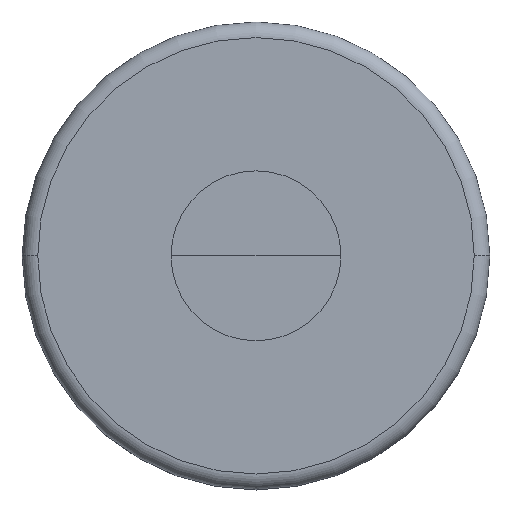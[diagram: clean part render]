
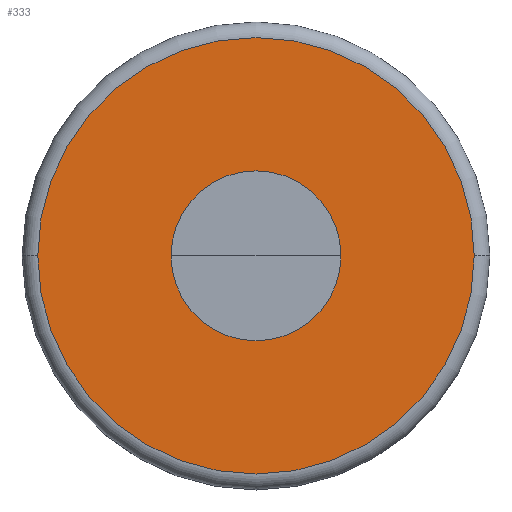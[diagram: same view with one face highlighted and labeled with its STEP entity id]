
A CAD part, top view. The second image highlights one B-rep face of the part: STEP entity #333.
In plain terms, the highlighted planar face has unit normal (0, 0, 1).
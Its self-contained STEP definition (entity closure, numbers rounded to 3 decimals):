
#9=CARTESIAN_POINT('',(0.,0.,1.892));
#10=DIRECTION('',(0.,0.,-1.));
#11=DIRECTION('',(1.,0.,0.));
#12=AXIS2_PLACEMENT_3D('',#9,#10,#11);
#14=CARTESIAN_POINT('',(0.,0.,1.892));
#15=DIRECTION('',(0.,0.,1.));
#16=DIRECTION('',(1.,0.,0.));
#17=AXIS2_PLACEMENT_3D('',#14,#15,#16);
#19=CARTESIAN_POINT('',(0.,0.,1.892));
#20=DIRECTION('',(0.,0.,-1.));
#21=DIRECTION('',(1.,0.,0.));
#22=AXIS2_PLACEMENT_3D('',#19,#20,#21);
#24=CARTESIAN_POINT('',(0.,0.,1.892));
#25=DIRECTION('',(0.,0.,-1.));
#26=DIRECTION('',(-1.,0.,0.));
#27=AXIS2_PLACEMENT_3D('',#24,#25,#26);
#252=CARTESIAN_POINT('',(0.545,0.,1.892));
#254=VERTEX_POINT('',#252);
#255=CARTESIAN_POINT('',(-0.545,0.,1.892));
#256=VERTEX_POINT('',#255);
#278=CARTESIAN_POINT('',(1.4,0.,1.892));
#279=CARTESIAN_POINT('',(-1.4,0.,1.892));
#280=VERTEX_POINT('',#278);
#281=VERTEX_POINT('',#279);
#318=CARTESIAN_POINT('',(0.,0.,1.892));
#319=DIRECTION('',(0.,0.,1.));
#320=DIRECTION('',(-1.,0.,0.));
#321=AXIS2_PLACEMENT_3D('',#318,#319,#320);
#322=PLANE('',#321);
#324=ORIENTED_EDGE('',*,*,#323,.T.);
#326=ORIENTED_EDGE('',*,*,#325,.T.);
#327=EDGE_LOOP('',(#324,#326));
#328=FACE_OUTER_BOUND('',#327,.F.);
#329=ORIENTED_EDGE('',*,*,#312,.F.);
#330=ORIENTED_EDGE('',*,*,#296,.T.);
#331=EDGE_LOOP('',(#329,#330));
#332=FACE_BOUND('',#331,.F.);
#333=ADVANCED_FACE('',(#328,#332),#322,.T.);
#13=CIRCLE('',#12,0.545);
#18=CIRCLE('',#17,0.545);
#23=CIRCLE('',#22,1.4);
#28=CIRCLE('',#27,1.4);
#296=EDGE_CURVE('',#254,#256,#18,.T.);
#312=EDGE_CURVE('',#254,#256,#13,.T.);
#323=EDGE_CURVE('',#280,#281,#23,.T.);
#325=EDGE_CURVE('',#281,#280,#28,.T.);
